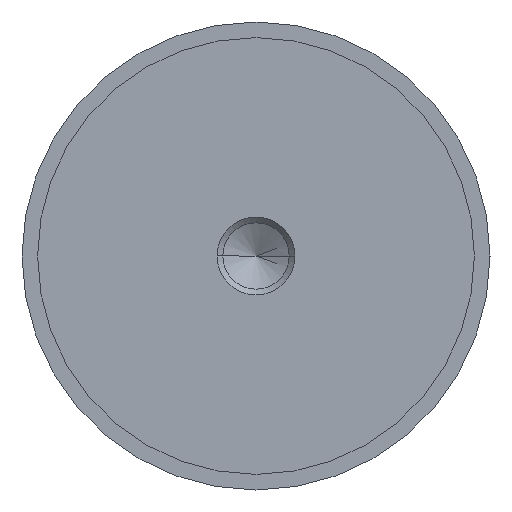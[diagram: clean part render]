
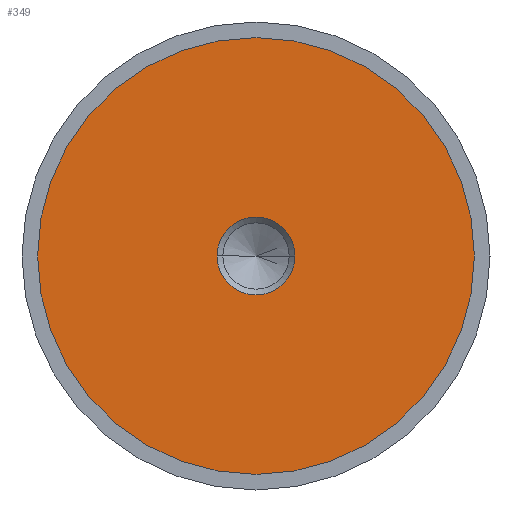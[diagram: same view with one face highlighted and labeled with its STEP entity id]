
A CAD part, left-side view. The second image highlights one B-rep face of the part: STEP entity #349.
In plain terms, the highlighted planar face has unit normal (-1, 0, 0).
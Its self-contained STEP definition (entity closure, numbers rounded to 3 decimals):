
#16 = AXIS2_PLACEMENT_3D ( 'NONE', #36, #402, #595 ) ;
#36 = CARTESIAN_POINT ( 'NONE',  ( -24.99, 0., 0. ) ) ;
#70 = AXIS2_PLACEMENT_3D ( 'NONE', #606, #257, #430 ) ;
#81 = DIRECTION ( 'NONE',  ( 0., 0., -1. ) ) ;
#114 = VERTEX_POINT ( 'NONE', #410 ) ;
#116 = FACE_OUTER_BOUND ( 'NONE', #735, .T. ) ;
#119 = VERTEX_POINT ( 'NONE', #534 ) ;
#132 = CARTESIAN_POINT ( 'NONE',  ( -24.99, 0., 0. ) ) ;
#140 = VERTEX_POINT ( 'NONE', #510 ) ;
#141 = AXIS2_PLACEMENT_3D ( 'NONE', #132, #688, #81 ) ;
#152 = EDGE_LOOP ( 'NONE', ( #560, #717 ) ) ;
#169 = CIRCLE ( 'NONE', #141, 4.99 ) ;
#194 = PLANE ( 'NONE',  #70 ) ;
#257 = DIRECTION ( 'NONE',  ( 1., 0., 0. ) ) ;
#347 = AXIS2_PLACEMENT_3D ( 'NONE', #530, #769, #703 ) ;
#349 = ADVANCED_FACE ( 'NONE', ( #414, #116 ), #194, .F. ) ;
#372 = CARTESIAN_POINT ( 'NONE',  ( -24.99, 0., -28. ) ) ;
#399 = DIRECTION ( 'NONE',  ( 0., 0., 1. ) ) ;
#402 = DIRECTION ( 'NONE',  ( -1., 0., 0. ) ) ;
#410 = CARTESIAN_POINT ( 'NONE',  ( -24.99, 4.99, 0. ) ) ;
#414 = FACE_BOUND ( 'NONE', #152, .T. ) ;
#430 = DIRECTION ( 'NONE',  ( 0., 0., -1. ) ) ;
#438 = AXIS2_PLACEMENT_3D ( 'NONE', #470, #713, #399 ) ;
#440 = VERTEX_POINT ( 'NONE', #372 ) ;
#470 = CARTESIAN_POINT ( 'NONE',  ( -24.99, 0., 0. ) ) ;
#510 = CARTESIAN_POINT ( 'NONE',  ( -24.99, 0., 28. ) ) ;
#515 = EDGE_CURVE ( 'NONE', #119, #114, #169, .T. ) ;
#530 = CARTESIAN_POINT ( 'NONE',  ( -24.99, 0., 0. ) ) ;
#534 = CARTESIAN_POINT ( 'NONE',  ( -24.99, -4.99, 0. ) ) ;
#542 = ORIENTED_EDGE ( 'NONE', *, *, #751, .T. ) ;
#560 = ORIENTED_EDGE ( 'NONE', *, *, #515, .T. ) ;
#595 = DIRECTION ( 'NONE',  ( 0., 0., 1. ) ) ;
#606 = CARTESIAN_POINT ( 'NONE',  ( -24.99, 28., 0. ) ) ;
#637 = EDGE_CURVE ( 'NONE', #440, #140, #654, .T. ) ;
#654 = CIRCLE ( 'NONE', #16, 28. ) ;
#670 = ORIENTED_EDGE ( 'NONE', *, *, #637, .T. ) ;
#681 = CIRCLE ( 'NONE', #438, 28. ) ;
#682 = EDGE_CURVE ( 'NONE', #114, #119, #692, .T. ) ;
#688 = DIRECTION ( 'NONE',  ( 1., 0., 0. ) ) ;
#692 = CIRCLE ( 'NONE', #347, 4.99 ) ;
#703 = DIRECTION ( 'NONE',  ( 0., 0., -1. ) ) ;
#713 = DIRECTION ( 'NONE',  ( -1., 0., 0. ) ) ;
#717 = ORIENTED_EDGE ( 'NONE', *, *, #682, .T. ) ;
#735 = EDGE_LOOP ( 'NONE', ( #542, #670 ) ) ;
#751 = EDGE_CURVE ( 'NONE', #140, #440, #681, .T. ) ;
#769 = DIRECTION ( 'NONE',  ( 1., 0., 0. ) ) ;
